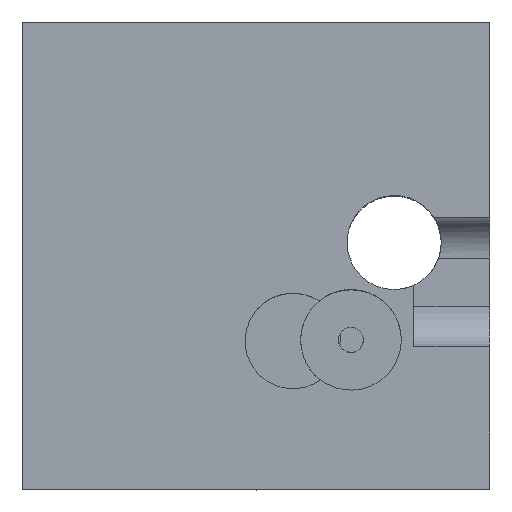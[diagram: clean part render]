
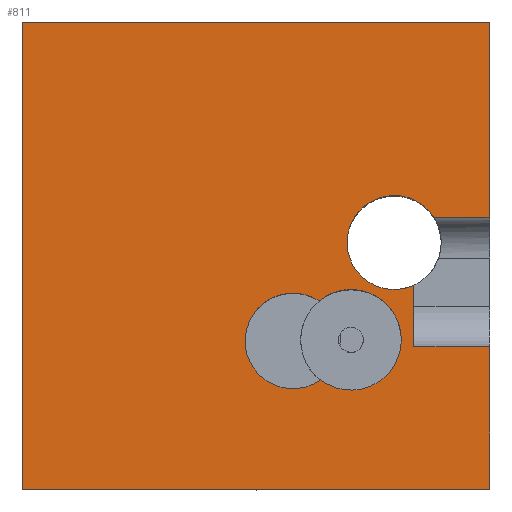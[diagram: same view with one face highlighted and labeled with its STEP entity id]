
A CAD part, top view. The second image highlights one B-rep face of the part: STEP entity #811.
In plain terms, the highlighted planar face has unit normal (0, 0, 1).
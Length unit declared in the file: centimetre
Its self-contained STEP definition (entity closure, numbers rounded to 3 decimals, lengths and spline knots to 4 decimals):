
#24 = CARTESIAN_POINT ( 'NONE',  ( 837.5514, 436.5818, 1000. ) ) ;
#36 = CARTESIAN_POINT ( 'NONE',  ( 0., 1000., 1000. ) ) ;
#40 = FACE_OUTER_BOUND ( 'NONE', #145, .T. ) ;
#50 = DIRECTION ( 'NONE',  ( 0., 1., 0. ) ) ;
#69 = AXIS2_PLACEMENT_3D ( 'NONE', #801, #601, #915 ) ;
#77 = VECTOR ( 'NONE', #953, 100. ) ;
#83 = EDGE_CURVE ( 'NONE', #1241, #1206, #769, .T. ) ;
#130 = VERTEX_POINT ( 'NONE', #165 ) ;
#135 = ORIENTED_EDGE ( 'NONE', *, *, #1072, .T. ) ;
#145 = EDGE_LOOP ( 'NONE', ( #715, #201, #428, #639, #135, #375, #1176, #1046, #679, #747 ) ) ;
#156 = DIRECTION ( 'NONE',  ( 1., 0., 0. ) ) ;
#160 = CIRCLE ( 'NONE', #69, 107.7069 ) ;
#165 = CARTESIAN_POINT ( 'NONE',  ( 1000., 305.4483, 1000. ) ) ;
#170 = DIRECTION ( 'NONE',  ( -1., 0., 0. ) ) ;
#189 = CIRCLE ( 'NONE', #512, 100.6791 ) ;
#201 = ORIENTED_EDGE ( 'NONE', *, *, #83, .F. ) ;
#228 = AXIS2_PLACEMENT_3D ( 'NONE', #268, #1188, #156 ) ;
#229 = CARTESIAN_POINT ( 'NONE',  ( 837.5514, 305.4483, 1000. ) ) ;
#243 = CARTESIAN_POINT ( 'NONE',  ( 810.9822, 319.908, 1000. ) ) ;
#265 = VERTEX_POINT ( 'NONE', #529 ) ;
#268 = CARTESIAN_POINT ( 'NONE',  ( 703.2753, 319.908, 1000. ) ) ;
#281 = VERTEX_POINT ( 'NONE', #229 ) ;
#291 = CARTESIAN_POINT ( 'NONE',  ( 0., 1000., 1000. ) ) ;
#292 = DIRECTION ( 'NONE',  ( 0., 0., 1. ) ) ;
#361 = DIRECTION ( 'NONE',  ( 0., -1., 0. ) ) ;
#375 = ORIENTED_EDGE ( 'NONE', *, *, #727, .T. ) ;
#411 = LINE ( 'NONE', #728, #901 ) ;
#428 = ORIENTED_EDGE ( 'NONE', *, *, #1093, .T. ) ;
#435 = DIRECTION ( 'NONE',  ( 1., 0., 0. ) ) ;
#449 = CARTESIAN_POINT ( 'NONE',  ( 0., 0., 1000. ) ) ;
#474 = CARTESIAN_POINT ( 'NONE',  ( 579.0718, 317.5122, 1000. ) ) ;
#486 = DIRECTION ( 'NONE',  ( 0., 1., 0. ) ) ;
#497 = CARTESIAN_POINT ( 'NONE',  ( 795.5639, 528.0877, 1000. ) ) ;
#498 = LINE ( 'NONE', #607, #944 ) ;
#511 = VECTOR ( 'NONE', #975, 100. ) ;
#512 = AXIS2_PLACEMENT_3D ( 'NONE', #497, #800, #693 ) ;
#515 = VERTEX_POINT ( 'NONE', #803 ) ;
#529 = CARTESIAN_POINT ( 'NONE',  ( 638.2982, 234.0083, 1000. ) ) ;
#540 = DIRECTION ( 'NONE',  ( 0., 0., 1. ) ) ;
#555 = CARTESIAN_POINT ( 'NONE',  ( 837.5514, 580.8034, 1000. ) ) ;
#570 = LINE ( 'NONE', #36, #620 ) ;
#576 = AXIS2_PLACEMENT_3D ( 'NONE', #449, #540, #435 ) ;
#578 = LINE ( 'NONE', #1217, #799 ) ;
#584 = EDGE_CURVE ( 'NONE', #281, #844, #1260, .T. ) ;
#591 = DIRECTION ( 'NONE',  ( 1., 0., 0. ) ) ;
#601 = DIRECTION ( 'NONE',  ( 0., 0., 1. ) ) ;
#607 = CARTESIAN_POINT ( 'NONE',  ( 1000., 1000., 1000. ) ) ;
#617 = VERTEX_POINT ( 'NONE', #939 ) ;
#620 = VECTOR ( 'NONE', #361, 100. ) ;
#630 = CARTESIAN_POINT ( 'NONE',  ( 837.5514, 0., 1000. ) ) ;
#639 = ORIENTED_EDGE ( 'NONE', *, *, #982, .T. ) ;
#650 = ORIENTED_EDGE ( 'NONE', *, *, #1341, .F. ) ;
#676 = PLANE ( 'NONE',  #576 ) ;
#679 = ORIENTED_EDGE ( 'NONE', *, *, #584, .T. ) ;
#693 = DIRECTION ( 'NONE',  ( 1., 0., 0. ) ) ;
#713 = LINE ( 'NONE', #821, #912 ) ;
#715 = ORIENTED_EDGE ( 'NONE', *, *, #1320, .F. ) ;
#727 = EDGE_CURVE ( 'NONE', #617, #1115, #411, .T. ) ;
#728 = CARTESIAN_POINT ( 'NONE',  ( 0., 0., 1000. ) ) ;
#747 = ORIENTED_EDGE ( 'NONE', *, *, #937, .F. ) ;
#769 = LINE ( 'NONE', #555, #511 ) ;
#771 = CARTESIAN_POINT ( 'NONE',  ( 1000., 1000., 1000. ) ) ;
#773 = EDGE_LOOP ( 'NONE', ( #870, #650, #1193 ) ) ;
#790 = DIRECTION ( 'NONE',  ( 1., 0., 0. ) ) ;
#799 = VECTOR ( 'NONE', #170, 100. ) ;
#800 = DIRECTION ( 'NONE',  ( 0., 0., 1. ) ) ;
#801 = CARTESIAN_POINT ( 'NONE',  ( 703.2753, 319.908, 1000. ) ) ;
#803 = CARTESIAN_POINT ( 'NONE',  ( 635.0339, 403.238, 1000. ) ) ;
#811 = ADVANCED_FACE ( 'NONE', ( #1279, #40 ), #676, .T. ) ;
#814 = CARTESIAN_POINT ( 'NONE',  ( 1000., 580.8034, 1000. ) ) ;
#821 = CARTESIAN_POINT ( 'NONE',  ( 837.5514, 305.4483, 1000. ) ) ;
#844 = VERTEX_POINT ( 'NONE', #24 ) ;
#864 = CARTESIAN_POINT ( 'NONE',  ( 881.3388, 580.8034, 1000. ) ) ;
#870 = ORIENTED_EDGE ( 'NONE', *, *, #1270, .F. ) ;
#877 = CIRCLE ( 'NONE', #228, 107.7069 ) ;
#901 = VECTOR ( 'NONE', #1153, 100. ) ;
#903 = CARTESIAN_POINT ( 'NONE',  ( 795.5639, 528.0877, 1000. ) ) ;
#912 = VECTOR ( 'NONE', #1245, 100. ) ;
#915 = DIRECTION ( 'NONE',  ( 1., 0., 0. ) ) ;
#937 = EDGE_CURVE ( 'NONE', #1099, #844, #189, .T. ) ;
#939 = CARTESIAN_POINT ( 'NONE',  ( 0., 0., 1000. ) ) ;
#944 = VECTOR ( 'NONE', #486, 100. ) ;
#953 = DIRECTION ( 'NONE',  ( 0., 1., 0. ) ) ;
#971 = VERTEX_POINT ( 'NONE', #291 ) ;
#975 = DIRECTION ( 'NONE',  ( -1., 0., 0. ) ) ;
#982 = EDGE_CURVE ( 'NONE', #994, #971, #578, .T. ) ;
#994 = VERTEX_POINT ( 'NONE', #1007 ) ;
#1007 = CARTESIAN_POINT ( 'NONE',  ( 1000., 1000., 1000. ) ) ;
#1012 = EDGE_CURVE ( 'NONE', #281, #130, #713, .T. ) ;
#1046 = ORIENTED_EDGE ( 'NONE', *, *, #1012, .F. ) ;
#1060 = CIRCLE ( 'NONE', #1343, 102.3751 ) ;
#1072 = EDGE_CURVE ( 'NONE', #971, #617, #570, .T. ) ;
#1090 = CARTESIAN_POINT ( 'NONE',  ( 694.8848, 528.0877, 1000. ) ) ;
#1093 = EDGE_CURVE ( 'NONE', #1241, #994, #1096, .T. ) ;
#1096 = LINE ( 'NONE', #771, #1277 ) ;
#1099 = VERTEX_POINT ( 'NONE', #1090 ) ;
#1100 = EDGE_CURVE ( 'NONE', #265, #1190, #877, .T. ) ;
#1115 = VERTEX_POINT ( 'NONE', #1210 ) ;
#1153 = DIRECTION ( 'NONE',  ( 1., 0., 0. ) ) ;
#1176 = ORIENTED_EDGE ( 'NONE', *, *, #1329, .T. ) ;
#1188 = DIRECTION ( 'NONE',  ( 0., 0., 1. ) ) ;
#1190 = VERTEX_POINT ( 'NONE', #243 ) ;
#1193 = ORIENTED_EDGE ( 'NONE', *, *, #1100, .F. ) ;
#1206 = VERTEX_POINT ( 'NONE', #864 ) ;
#1210 = CARTESIAN_POINT ( 'NONE',  ( 1000., 0., 1000. ) ) ;
#1216 = AXIS2_PLACEMENT_3D ( 'NONE', #903, #292, #790 ) ;
#1217 = CARTESIAN_POINT ( 'NONE',  ( 0., 1000., 1000. ) ) ;
#1235 = CIRCLE ( 'NONE', #1216, 100.6791 ) ;
#1241 = VERTEX_POINT ( 'NONE', #814 ) ;
#1245 = DIRECTION ( 'NONE',  ( 1., 0., 0. ) ) ;
#1260 = LINE ( 'NONE', #630, #77 ) ;
#1270 = EDGE_CURVE ( 'NONE', #515, #265, #1060, .T. ) ;
#1277 = VECTOR ( 'NONE', #50, 100. ) ;
#1279 = FACE_BOUND ( 'NONE', #773, .T. ) ;
#1320 = EDGE_CURVE ( 'NONE', #1206, #1099, #1235, .T. ) ;
#1329 = EDGE_CURVE ( 'NONE', #1115, #130, #498, .T. ) ;
#1332 = DIRECTION ( 'NONE',  ( 0., 0., 1. ) ) ;
#1341 = EDGE_CURVE ( 'NONE', #1190, #515, #160, .T. ) ;
#1343 = AXIS2_PLACEMENT_3D ( 'NONE', #474, #1332, #591 ) ;
